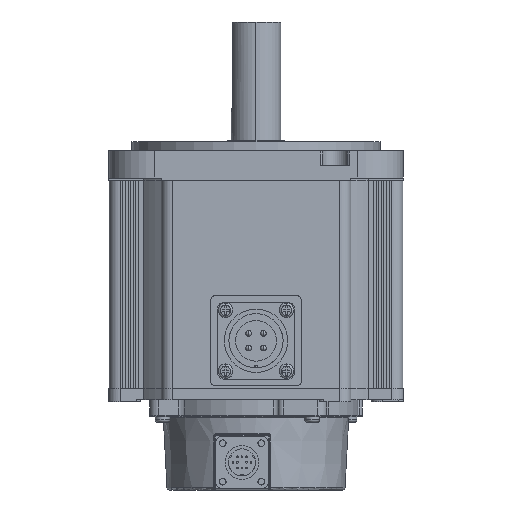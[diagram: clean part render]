
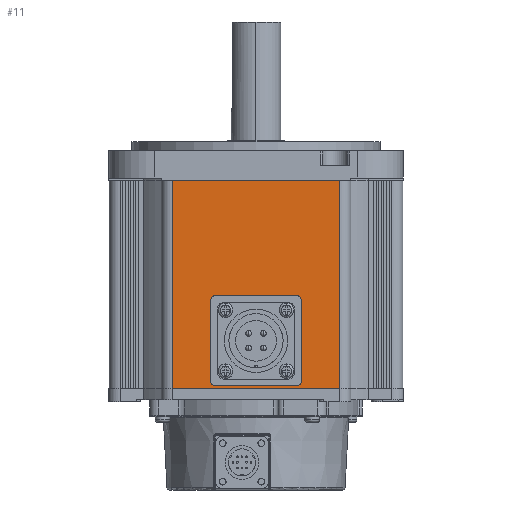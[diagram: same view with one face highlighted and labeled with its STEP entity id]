
A CAD part, front view. The second image highlights one B-rep face of the part: STEP entity #11.
In plain terms, the highlighted planar face has unit normal (0, -1, 0) as drawn and (0, 1, 0) by its records, which use the part's own axes.
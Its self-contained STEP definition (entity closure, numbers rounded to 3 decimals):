
#11 = ADVANCED_FACE ( 'NONE', ( #13629, #27991 ), #23158, .F. ) ;
#345 = ORIENTED_EDGE ( 'NONE', *, *, #25417, .T. ) ;
#1272 = CARTESIAN_POINT ( 'NONE',  ( 0., 65., 21. ) ) ;
#1509 = DIRECTION ( 'NONE',  ( 0., 1., 0. ) ) ;
#1616 = CARTESIAN_POINT ( 'NONE',  ( -37., 65., 92. ) ) ;
#1691 = DIRECTION ( 'NONE',  ( 0., 0., -1. ) ) ;
#2000 = LINE ( 'NONE', #14919, #5658 ) ;
#2361 = EDGE_CURVE ( 'NONE', #14249, #10750, #12484, .T. ) ;
#2802 = ORIENTED_EDGE ( 'NONE', *, *, #2361, .F. ) ;
#3208 = VERTEX_POINT ( 'NONE', #30408 ) ;
#3321 = DIRECTION ( 'NONE',  ( 0., 1., 0. ) ) ;
#3807 = EDGE_CURVE ( 'NONE', #3208, #11909, #11795, .T. ) ;
#5270 = LINE ( 'NONE', #9970, #15084 ) ;
#5500 = DIRECTION ( 'NONE',  ( -1., 0., 0. ) ) ;
#5658 = VECTOR ( 'NONE', #9020, 1000. ) ;
#5683 = AXIS2_PLACEMENT_3D ( 'NONE', #1616, #20838, #6595 ) ;
#6595 = DIRECTION ( 'NONE',  ( 1., 0., 0. ) ) ;
#7610 = DIRECTION ( 'NONE',  ( 0., 0., -1. ) ) ;
#8708 = VECTOR ( 'NONE', #1691, 1000. ) ;
#8981 = EDGE_LOOP ( 'NONE', ( #2802, #20633 ) ) ;
#9020 = DIRECTION ( 'NONE',  ( -1., 0., 0. ) ) ;
#9456 = CARTESIAN_POINT ( 'NONE',  ( -37., 65., 92. ) ) ;
#9693 = CARTESIAN_POINT ( 'NONE',  ( -37., 65., 0. ) ) ;
#9970 = CARTESIAN_POINT ( 'NONE',  ( -37., 65., 92. ) ) ;
#10750 = VERTEX_POINT ( 'NONE', #24147 ) ;
#11031 = CARTESIAN_POINT ( 'NONE',  ( 0., 65., 21. ) ) ;
#11505 = ORIENTED_EDGE ( 'NONE', *, *, #17073, .T. ) ;
#11795 = LINE ( 'NONE', #9456, #17121 ) ;
#11909 = VERTEX_POINT ( 'NONE', #17967 ) ;
#12169 = AXIS2_PLACEMENT_3D ( 'NONE', #1272, #3321, #5500 ) ;
#12484 = CIRCLE ( 'NONE', #13463, 5. ) ;
#13463 = AXIS2_PLACEMENT_3D ( 'NONE', #11031, #1509, #30218 ) ;
#13629 = FACE_BOUND ( 'NONE', #8981, .T. ) ;
#14249 = VERTEX_POINT ( 'NONE', #23490 ) ;
#14919 = CARTESIAN_POINT ( 'NONE',  ( -37., 65., 0. ) ) ;
#15084 = VECTOR ( 'NONE', #7610, 1000. ) ;
#16209 = CARTESIAN_POINT ( 'NONE',  ( 37., 65., 92. ) ) ;
#17073 = EDGE_CURVE ( 'NONE', #3208, #28761, #21216, .T. ) ;
#17121 = VECTOR ( 'NONE', #18983, 1000. ) ;
#17967 = CARTESIAN_POINT ( 'NONE',  ( -37., 65., 92. ) ) ;
#18751 = CARTESIAN_POINT ( 'NONE',  ( 37., 65., 0. ) ) ;
#18983 = DIRECTION ( 'NONE',  ( -1., 0., 0. ) ) ;
#20578 = EDGE_CURVE ( 'NONE', #11909, #21943, #5270, .T. ) ;
#20585 = EDGE_LOOP ( 'NONE', ( #345, #30771, #29336, #11505 ) ) ;
#20633 = ORIENTED_EDGE ( 'NONE', *, *, #25974, .F. ) ;
#20838 = DIRECTION ( 'NONE',  ( 0., -1., 0. ) ) ;
#21216 = LINE ( 'NONE', #16209, #8708 ) ;
#21943 = VERTEX_POINT ( 'NONE', #9693 ) ;
#23158 = PLANE ( 'NONE',  #5683 ) ;
#23490 = CARTESIAN_POINT ( 'NONE',  ( -5., 65., 21. ) ) ;
#24147 = CARTESIAN_POINT ( 'NONE',  ( 5., 65., 21. ) ) ;
#25137 = CIRCLE ( 'NONE', #12169, 5. ) ;
#25417 = EDGE_CURVE ( 'NONE', #28761, #21943, #2000, .T. ) ;
#25974 = EDGE_CURVE ( 'NONE', #10750, #14249, #25137, .T. ) ;
#27991 = FACE_OUTER_BOUND ( 'NONE', #20585, .T. ) ;
#28761 = VERTEX_POINT ( 'NONE', #18751 ) ;
#29336 = ORIENTED_EDGE ( 'NONE', *, *, #3807, .F. ) ;
#30218 = DIRECTION ( 'NONE',  ( -1., 0., 0. ) ) ;
#30408 = CARTESIAN_POINT ( 'NONE',  ( 37., 65., 92. ) ) ;
#30771 = ORIENTED_EDGE ( 'NONE', *, *, #20578, .F. ) ;
